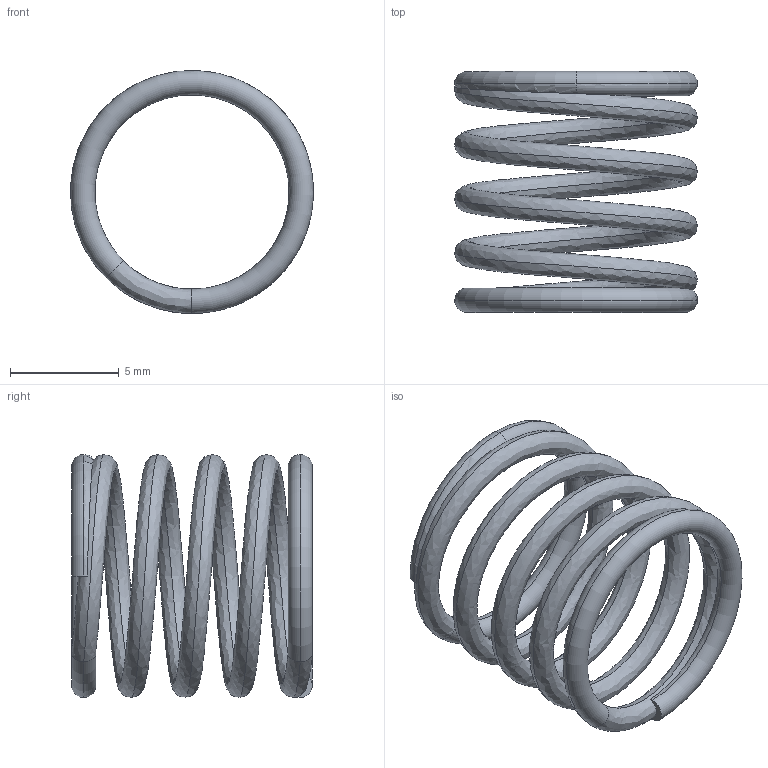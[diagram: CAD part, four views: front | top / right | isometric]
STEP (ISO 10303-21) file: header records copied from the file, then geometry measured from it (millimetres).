
FILE_DESCRIPTION (( 'STEP AP214' ), '1' );
FILE_NAME ('M3K_Spring.STEP', '2015-11-05T18:29:06', ( 'Carlos' ), ( 'CJS Entrerprises' ), 'SwSTEP 2.0', 'SolidWorks 2007', '' );
FILE_SCHEMA (( 'AUTOMOTIVE_DESIGN' ));
Length unit declared in the file: inch
Products named in the file (2): M3K_Spring; M3_Spring
Assembly tree (1 placements, depth 2):
  M3K_Spring
    M3_Spring
Bounding box: 11.18 x 11.07 x 11.18 mm (x, y, z)
Volume: 170.8 mm3; surface area: 602.5 mm2
Topology: 1 solids, 1 shells, 13 faces, 31 edges, 18 vertices
Faces by surface type: torus 9, bspline 2, plane 2
Entity records: 1337 total; most frequent: CARTESIAN_POINT 978, DIRECTION 76, ORIENTED_EDGE 62, AXIS2_PLACEMENT_3D 38, EDGE_CURVE 31, CIRCLE 23, VERTEX_POINT 18, EDGE_LOOP 15
